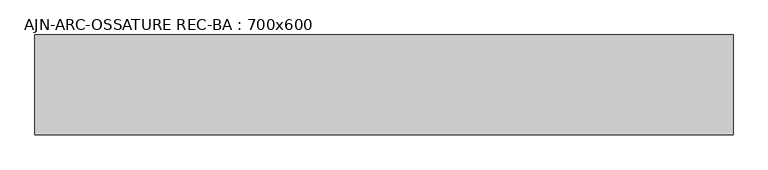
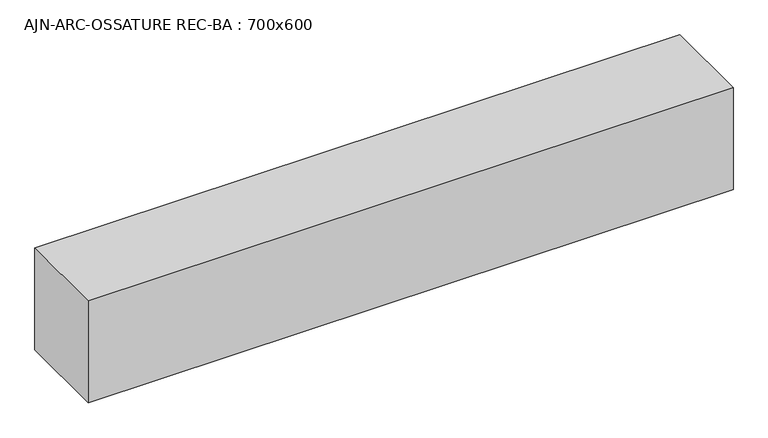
"""IFC4 building model written with IfcOpenShell, lengths in millimetres: beam geometry, AJN-ARC-OSSATURE REC-BA : 700x600."""

from ifc_helpers import new_model, si_unit, frame, origin, place, context, project, spatial, polyline, outline, extrude, source, transform, mapped, element, save


def ajn_arc_ossature_rec_ba_700x600_592c9ed1(model_context):
    return source(origin(), model_context, "Body", "SweptSolid", [
        extrude(outline(polyline([(2250.0, 300.0), (2250.0, -300.0), (-1937.3, -300.0), (-1937.3, 300.0), (2250.0, 300.0)])), frame((0.0, 0.0, -350.0), z_axis=(0.0, 0.0, 1.0), x_axis=(1.0, 0.0, 0.0)), (0.0, 0.0, 1.0), 700.0),
    ])


if __name__ == "__main__":
    model = new_model("IFC4")
    model_context = context("Model", 3, world=origin())
    ifc_project = project(units=[si_unit("LENGTHUNIT", "METRE", prefix="MILLI")], contexts=[model_context])
    site = spatial("IfcSite", under=ifc_project)
    building = spatial("IfcBuilding", under=site)
    placement = place(None, origin())
    ajn_arc_ossature_rec_ba_700x600_shape = ajn_arc_ossature_rec_ba_700x600_592c9ed1(model_context)
    element("IfcBeam", 1, ObjectType="AJN-ARC-OSSATURE REC-BA : 700x600", at=placement, inside=building, context=model_context, shape_type="MappedRepresentation", body=[
        mapped(ajn_arc_ossature_rec_ba_700x600_shape, transform((0.0, 0.0, 0.0), x_axis=(1.0, 0.0, 0.0), y_axis=(0.0, 1.0, 0.0), z_axis=(0.0, 0.0, 1.0))),
    ])
    save(model, "model.ifc")
